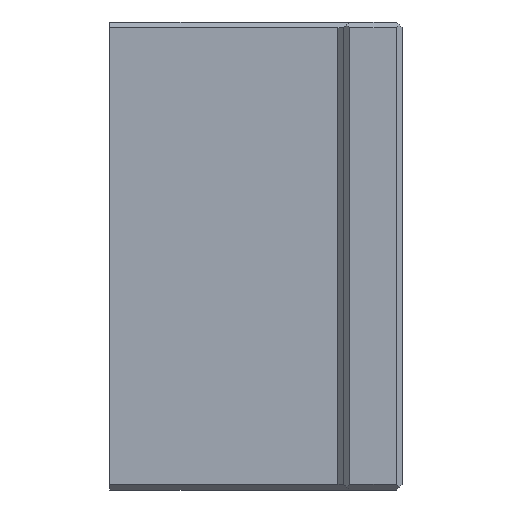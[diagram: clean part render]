
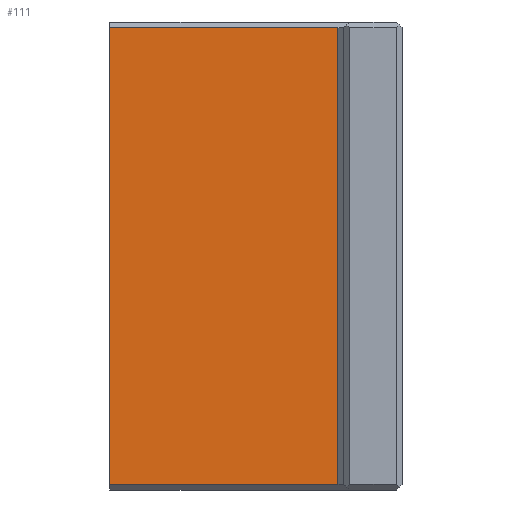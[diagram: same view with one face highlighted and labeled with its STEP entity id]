
A CAD part, left-side view. The second image highlights one B-rep face of the part: STEP entity #111.
In plain terms, the highlighted planar face has unit normal (-1, 0, 0).
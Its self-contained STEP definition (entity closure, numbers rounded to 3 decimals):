
#111 = ADVANCED_FACE( '', ( #204 ), #205, .T. );
#204 = FACE_OUTER_BOUND( '', #318, .T. );
#205 = PLANE( '', #319 );
#318 = EDGE_LOOP( '', ( #626, #627, #628, #629 ) );
#319 = AXIS2_PLACEMENT_3D( '', #630, #631, #632 );
#626 = ORIENTED_EDGE( '', *, *, #908, .T. );
#627 = ORIENTED_EDGE( '', *, *, #911, .F. );
#628 = ORIENTED_EDGE( '', *, *, #912, .F. );
#629 = ORIENTED_EDGE( '', *, *, #913, .T. );
#630 = CARTESIAN_POINT( '', ( -5., 0., -19.5 ) );
#631 = DIRECTION( '', ( -1., 0., 0. ) );
#632 = DIRECTION( '', ( 0., 0., -1. ) );
#908 = EDGE_CURVE( '', #1112, #1115, #1117, .T. );
#911 = EDGE_CURVE( '', #1120, #1115, #1121, .T. );
#912 = EDGE_CURVE( '', #1122, #1120, #1123, .T. );
#913 = EDGE_CURVE( '', #1122, #1112, #1124, .T. );
#1112 = VERTEX_POINT( '', #1429 );
#1115 = VERTEX_POINT( '', #1434 );
#1117 = LINE( '', #1437, #1438 );
#1120 = VERTEX_POINT( '', #1443 );
#1121 = LINE( '', #1444, #1445 );
#1122 = VERTEX_POINT( '', #1446 );
#1123 = LINE( '', #1447, #1448 );
#1124 = LINE( '', #1449, #1450 );
#1429 = CARTESIAN_POINT( '', ( -5., -19.5, -19.5 ) );
#1434 = CARTESIAN_POINT( '', ( -5., -19.5, 19.5 ) );
#1437 = CARTESIAN_POINT( '', ( -5., -19.5, 0. ) );
#1438 = VECTOR( '', #1652, 1. );
#1443 = CARTESIAN_POINT( '', ( -5., 0., 19.5 ) );
#1444 = CARTESIAN_POINT( '', ( -5., 0., 19.5 ) );
#1445 = VECTOR( '', #1655, 1. );
#1446 = CARTESIAN_POINT( '', ( -5., 0., -19.5 ) );
#1447 = CARTESIAN_POINT( '', ( -5., 0., -19.5 ) );
#1448 = VECTOR( '', #1656, 1. );
#1449 = CARTESIAN_POINT( '', ( -5., 0., -19.5 ) );
#1450 = VECTOR( '', #1657, 1. );
#1652 = DIRECTION( '', ( 0., 0., 1. ) );
#1655 = DIRECTION( '', ( 0., -1., 0. ) );
#1656 = DIRECTION( '', ( 0., 0., 1. ) );
#1657 = DIRECTION( '', ( 0., -1., 0. ) );
